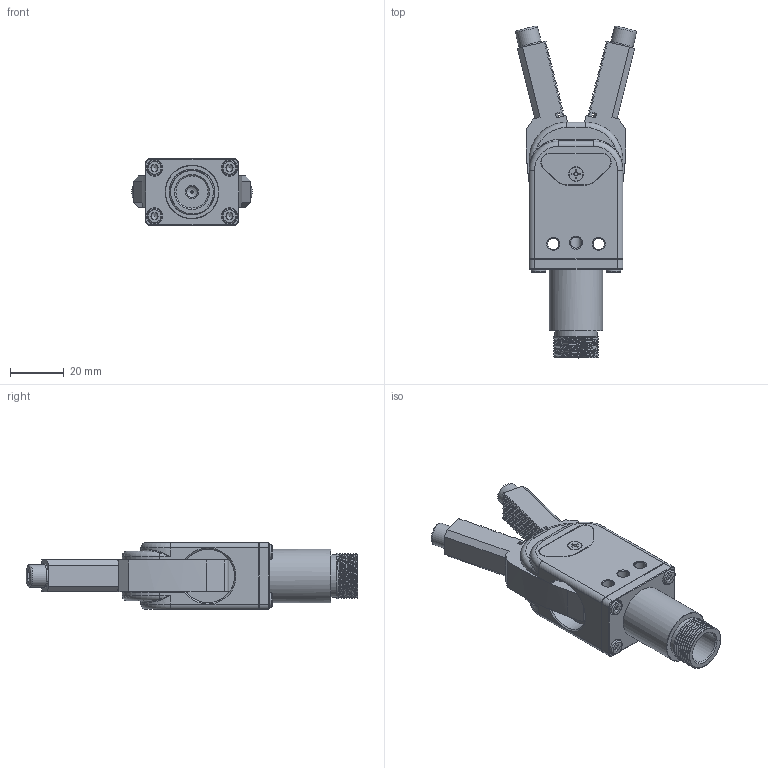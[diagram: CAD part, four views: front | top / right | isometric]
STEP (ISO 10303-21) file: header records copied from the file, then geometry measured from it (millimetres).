
FILE_DESCRIPTION(/* description */ (''),/* implementation_level */ '2;1');
FILE_NAME(/* name */ '_model1.stp',/* time_stamp */ '2023-03-08T14:36:26+08:00',/* author */ (''),/* organization */ (''),/* preprocessor_version */ 'ST-DEVELOPER v16',/* originating_system */ 'SIEMENS PLM Software NX 10.0',/* authorisation */ '');
FILE_SCHEMA (('AUTOMOTIVE_DESIGN { 1 0 10303 214 3 1 1 1 }'));
Length unit declared in the file: millimetre
Products named in the file (1): Admi115498B06j6s
Bounding box: 45.24 x 124.06 x 25 mm (x, y, z)
Volume: 52247.4 mm3; surface area: 22026.3 mm2
Topology: 1 solids, 16 shells, 1924 faces, 3610 edges, 1747 vertices
Faces by surface type: plane 1598, cylinder 160, cone 122, bspline 26, torus 18
Full cylindrical faces by diameter (mm): 0.8 x1, 2.5 x6, 3 x30, 3.2 x1, 3.4 x4, 3.541 x4, 4 x4, 4.038 x3, 4.2 x6, 4.3 x1, 5 x12, 5.2 x1, 5.5 x6, 6 x4, 7 x2, 7.8 x2, 8.5 x2, 9 x2, 12 x1, 15.8 x1, 20 x3
Entity records: 47767 total; most frequent: CARTESIAN_POINT 11964, DIRECTION 7466, ORIENTED_EDGE 6622, EDGE_CURVE 3311, LINE 2754, VECTOR 2754, AXIS2_PLACEMENT_3D 2356, EDGE_LOOP 2200
